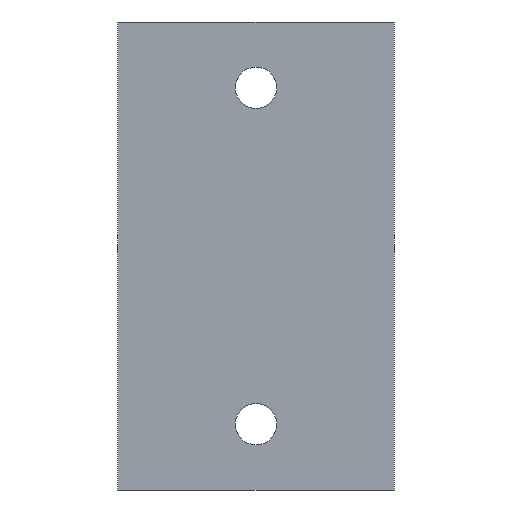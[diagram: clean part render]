
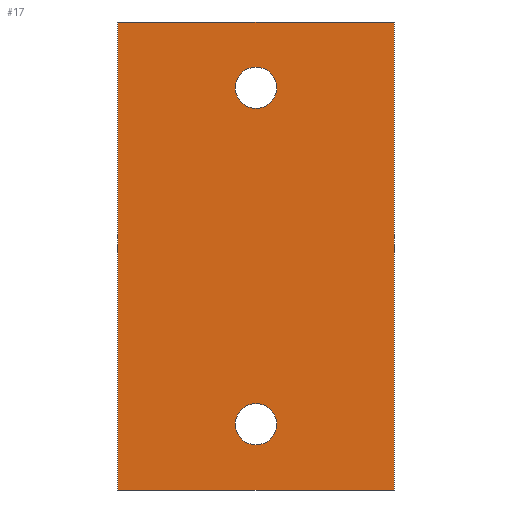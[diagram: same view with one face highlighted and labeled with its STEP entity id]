
A CAD part, left-side view. The second image highlights one B-rep face of the part: STEP entity #17.
In plain terms, the highlighted planar face has unit normal (-1, 0, 0).
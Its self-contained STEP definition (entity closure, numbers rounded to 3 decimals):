
#17 = ADVANCED_FACE('',(#18,#137,#168),#32,.F.);
#18 = FACE_BOUND('',#19,.F.);
#19 = EDGE_LOOP('',(#20,#55,#83,#111));
#20 = ORIENTED_EDGE('',*,*,#21,.F.);
#21 = EDGE_CURVE('',#22,#24,#26,.T.);
#22 = VERTEX_POINT('',#23);
#23 = CARTESIAN_POINT('',(5.85,-7.35,-12.45));
#24 = VERTEX_POINT('',#25);
#25 = CARTESIAN_POINT('',(5.85,-7.35,12.45));
#26 = SURFACE_CURVE('',#27,(#31,#43),.PCURVE_S1.);
#27 = LINE('',#28,#29);
#28 = CARTESIAN_POINT('',(5.85,-7.35,-12.45));
#29 = VECTOR('',#30,1.);
#30 = DIRECTION('',(0.,0.,1.));
#31 = PCURVE('',#32,#37);
#32 = PLANE('',#33);
#33 = AXIS2_PLACEMENT_3D('',#34,#35,#36);
#34 = CARTESIAN_POINT('',(5.85,-7.35,-12.45));
#35 = DIRECTION('',(1.,0.,0.));
#36 = DIRECTION('',(0.,0.,1.));
#37 = DEFINITIONAL_REPRESENTATION('',(#38),#42);
#38 = LINE('',#39,#40);
#39 = CARTESIAN_POINT('',(0.,0.));
#40 = VECTOR('',#41,1.);
#41 = DIRECTION('',(1.,0.));
#42 = ( GEOMETRIC_REPRESENTATION_CONTEXT(2) 
PARAMETRIC_REPRESENTATION_CONTEXT() REPRESENTATION_CONTEXT('2D SPACE',''
  ) );
#43 = PCURVE('',#44,#49);
#44 = PLANE('',#45);
#45 = AXIS2_PLACEMENT_3D('',#46,#47,#48);
#46 = CARTESIAN_POINT('',(5.85,-7.35,-12.45));
#47 = DIRECTION('',(0.,1.,0.));
#48 = DIRECTION('',(0.,0.,1.));
#49 = DEFINITIONAL_REPRESENTATION('',(#50),#54);
#50 = LINE('',#51,#52);
#51 = CARTESIAN_POINT('',(0.,0.));
#52 = VECTOR('',#53,1.);
#53 = DIRECTION('',(1.,0.));
#54 = ( GEOMETRIC_REPRESENTATION_CONTEXT(2) 
PARAMETRIC_REPRESENTATION_CONTEXT() REPRESENTATION_CONTEXT('2D SPACE',''
  ) );
#55 = ORIENTED_EDGE('',*,*,#56,.T.);
#56 = EDGE_CURVE('',#22,#57,#59,.T.);
#57 = VERTEX_POINT('',#58);
#58 = CARTESIAN_POINT('',(5.85,7.35,-12.45));
#59 = SURFACE_CURVE('',#60,(#64,#71),.PCURVE_S1.);
#60 = LINE('',#61,#62);
#61 = CARTESIAN_POINT('',(5.85,-7.35,-12.45));
#62 = VECTOR('',#63,1.);
#63 = DIRECTION('',(0.,1.,0.));
#64 = PCURVE('',#32,#65);
#65 = DEFINITIONAL_REPRESENTATION('',(#66),#70);
#66 = LINE('',#67,#68);
#67 = CARTESIAN_POINT('',(0.,0.));
#68 = VECTOR('',#69,1.);
#69 = DIRECTION('',(0.,-1.));
#70 = ( GEOMETRIC_REPRESENTATION_CONTEXT(2) 
PARAMETRIC_REPRESENTATION_CONTEXT() REPRESENTATION_CONTEXT('2D SPACE',''
  ) );
#71 = PCURVE('',#72,#77);
#72 = PLANE('',#73);
#73 = AXIS2_PLACEMENT_3D('',#74,#75,#76);
#74 = CARTESIAN_POINT('',(5.85,-7.35,-12.45));
#75 = DIRECTION('',(0.,0.,1.));
#76 = DIRECTION('',(1.,0.,0.));
#77 = DEFINITIONAL_REPRESENTATION('',(#78),#82);
#78 = LINE('',#79,#80);
#79 = CARTESIAN_POINT('',(0.,0.));
#80 = VECTOR('',#81,1.);
#81 = DIRECTION('',(0.,1.));
#82 = ( GEOMETRIC_REPRESENTATION_CONTEXT(2) 
PARAMETRIC_REPRESENTATION_CONTEXT() REPRESENTATION_CONTEXT('2D SPACE',''
  ) );
#83 = ORIENTED_EDGE('',*,*,#84,.T.);
#84 = EDGE_CURVE('',#57,#85,#87,.T.);
#85 = VERTEX_POINT('',#86);
#86 = CARTESIAN_POINT('',(5.85,7.35,12.45));
#87 = SURFACE_CURVE('',#88,(#92,#99),.PCURVE_S1.);
#88 = LINE('',#89,#90);
#89 = CARTESIAN_POINT('',(5.85,7.35,-12.45));
#90 = VECTOR('',#91,1.);
#91 = DIRECTION('',(0.,0.,1.));
#92 = PCURVE('',#32,#93);
#93 = DEFINITIONAL_REPRESENTATION('',(#94),#98);
#94 = LINE('',#95,#96);
#95 = CARTESIAN_POINT('',(0.,-14.7));
#96 = VECTOR('',#97,1.);
#97 = DIRECTION('',(1.,0.));
#98 = ( GEOMETRIC_REPRESENTATION_CONTEXT(2) 
PARAMETRIC_REPRESENTATION_CONTEXT() REPRESENTATION_CONTEXT('2D SPACE',''
  ) );
#99 = PCURVE('',#100,#105);
#100 = PLANE('',#101);
#101 = AXIS2_PLACEMENT_3D('',#102,#103,#104);
#102 = CARTESIAN_POINT('',(5.85,7.35,-12.45));
#103 = DIRECTION('',(0.,1.,0.));
#104 = DIRECTION('',(0.,0.,1.));
#105 = DEFINITIONAL_REPRESENTATION('',(#106),#110);
#106 = LINE('',#107,#108);
#107 = CARTESIAN_POINT('',(0.,0.));
#108 = VECTOR('',#109,1.);
#109 = DIRECTION('',(1.,0.));
#110 = ( GEOMETRIC_REPRESENTATION_CONTEXT(2) 
PARAMETRIC_REPRESENTATION_CONTEXT() REPRESENTATION_CONTEXT('2D SPACE',''
  ) );
#111 = ORIENTED_EDGE('',*,*,#112,.F.);
#112 = EDGE_CURVE('',#24,#85,#113,.T.);
#113 = SURFACE_CURVE('',#114,(#118,#125),.PCURVE_S1.);
#114 = LINE('',#115,#116);
#115 = CARTESIAN_POINT('',(5.85,-7.35,12.45));
#116 = VECTOR('',#117,1.);
#117 = DIRECTION('',(0.,1.,0.));
#118 = PCURVE('',#32,#119);
#119 = DEFINITIONAL_REPRESENTATION('',(#120),#124);
#120 = LINE('',#121,#122);
#121 = CARTESIAN_POINT('',(24.9,0.));
#122 = VECTOR('',#123,1.);
#123 = DIRECTION('',(0.,-1.));
#124 = ( GEOMETRIC_REPRESENTATION_CONTEXT(2) 
PARAMETRIC_REPRESENTATION_CONTEXT() REPRESENTATION_CONTEXT('2D SPACE',''
  ) );
#125 = PCURVE('',#126,#131);
#126 = PLANE('',#127);
#127 = AXIS2_PLACEMENT_3D('',#128,#129,#130);
#128 = CARTESIAN_POINT('',(5.85,-7.35,12.45));
#129 = DIRECTION('',(0.,0.,1.));
#130 = DIRECTION('',(1.,0.,0.));
#131 = DEFINITIONAL_REPRESENTATION('',(#132),#136);
#132 = LINE('',#133,#134);
#133 = CARTESIAN_POINT('',(0.,0.));
#134 = VECTOR('',#135,1.);
#135 = DIRECTION('',(0.,1.));
#136 = ( GEOMETRIC_REPRESENTATION_CONTEXT(2) 
PARAMETRIC_REPRESENTATION_CONTEXT() REPRESENTATION_CONTEXT('2D SPACE',''
  ) );
#137 = FACE_BOUND('',#138,.F.);
#138 = EDGE_LOOP('',(#139));
#139 = ORIENTED_EDGE('',*,*,#140,.F.);
#140 = EDGE_CURVE('',#141,#141,#143,.T.);
#141 = VERTEX_POINT('',#142);
#142 = CARTESIAN_POINT('',(5.85,1.1,-8.95));
#143 = SURFACE_CURVE('',#144,(#149,#156),.PCURVE_S1.);
#144 = CIRCLE('',#145,1.1);
#145 = AXIS2_PLACEMENT_3D('',#146,#147,#148);
#146 = CARTESIAN_POINT('',(5.85,0.,-8.95));
#147 = DIRECTION('',(1.,0.,0.));
#148 = DIRECTION('',(0.,1.,0.));
#149 = PCURVE('',#32,#150);
#150 = DEFINITIONAL_REPRESENTATION('',(#151),#155);
#151 = CIRCLE('',#152,1.1);
#152 = AXIS2_PLACEMENT_2D('',#153,#154);
#153 = CARTESIAN_POINT('',(3.5,-7.35));
#154 = DIRECTION('',(0.,-1.));
#155 = ( GEOMETRIC_REPRESENTATION_CONTEXT(2) 
PARAMETRIC_REPRESENTATION_CONTEXT() REPRESENTATION_CONTEXT('2D SPACE',''
  ) );
#156 = PCURVE('',#157,#162);
#157 = CYLINDRICAL_SURFACE('',#158,1.1);
#158 = AXIS2_PLACEMENT_3D('',#159,#160,#161);
#159 = CARTESIAN_POINT('',(5.85,0.,-8.95));
#160 = DIRECTION('',(-1.,-0.,-0.));
#161 = DIRECTION('',(0.,1.,0.));
#162 = DEFINITIONAL_REPRESENTATION('',(#163),#167);
#163 = LINE('',#164,#165);
#164 = CARTESIAN_POINT('',(-0.,0.));
#165 = VECTOR('',#166,1.);
#166 = DIRECTION('',(-1.,0.));
#167 = ( GEOMETRIC_REPRESENTATION_CONTEXT(2) 
PARAMETRIC_REPRESENTATION_CONTEXT() REPRESENTATION_CONTEXT('2D SPACE',''
  ) );
#168 = FACE_BOUND('',#169,.F.);
#169 = EDGE_LOOP('',(#170));
#170 = ORIENTED_EDGE('',*,*,#171,.F.);
#171 = EDGE_CURVE('',#172,#172,#174,.T.);
#172 = VERTEX_POINT('',#173);
#173 = CARTESIAN_POINT('',(5.85,1.1,8.95));
#174 = SURFACE_CURVE('',#175,(#180,#187),.PCURVE_S1.);
#175 = CIRCLE('',#176,1.1);
#176 = AXIS2_PLACEMENT_3D('',#177,#178,#179);
#177 = CARTESIAN_POINT('',(5.85,0.,8.95));
#178 = DIRECTION('',(1.,0.,0.));
#179 = DIRECTION('',(0.,1.,0.));
#180 = PCURVE('',#32,#181);
#181 = DEFINITIONAL_REPRESENTATION('',(#182),#186);
#182 = CIRCLE('',#183,1.1);
#183 = AXIS2_PLACEMENT_2D('',#184,#185);
#184 = CARTESIAN_POINT('',(21.4,-7.35));
#185 = DIRECTION('',(0.,-1.));
#186 = ( GEOMETRIC_REPRESENTATION_CONTEXT(2) 
PARAMETRIC_REPRESENTATION_CONTEXT() REPRESENTATION_CONTEXT('2D SPACE',''
  ) );
#187 = PCURVE('',#188,#193);
#188 = CYLINDRICAL_SURFACE('',#189,1.1);
#189 = AXIS2_PLACEMENT_3D('',#190,#191,#192);
#190 = CARTESIAN_POINT('',(5.85,0.,8.95));
#191 = DIRECTION('',(-1.,-0.,-0.));
#192 = DIRECTION('',(0.,1.,0.));
#193 = DEFINITIONAL_REPRESENTATION('',(#194),#198);
#194 = LINE('',#195,#196);
#195 = CARTESIAN_POINT('',(-0.,0.));
#196 = VECTOR('',#197,1.);
#197 = DIRECTION('',(-1.,0.));
#198 = ( GEOMETRIC_REPRESENTATION_CONTEXT(2) 
PARAMETRIC_REPRESENTATION_CONTEXT() REPRESENTATION_CONTEXT('2D SPACE',''
  ) );
